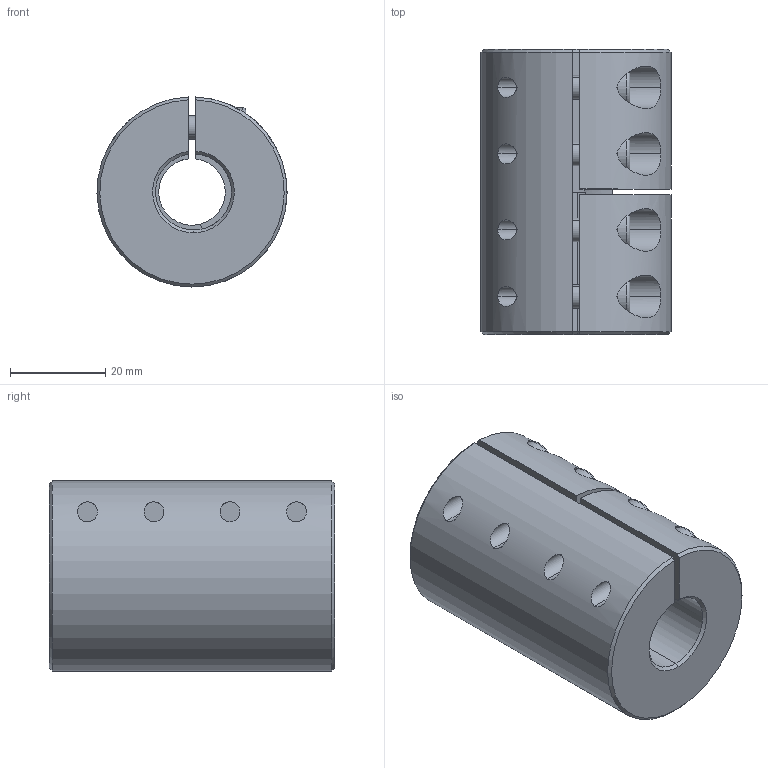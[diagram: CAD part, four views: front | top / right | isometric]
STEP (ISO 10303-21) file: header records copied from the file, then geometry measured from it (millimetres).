
FILE_DESCRIPTION (( 'STEP AP214' ), '1' );
FILE_NAME ('LL-B-D40L60-14-16½¨Ä£.STEP', '2022-07-22T01:01:00', ( '' ), ( '' ), 'SwSTEP 2.0', 'SolidWorks 2022', '' );
FILE_SCHEMA (( 'AUTOMOTIVE_DESIGN' ));
Length unit declared in the file: millimetre
Products named in the file (1): LL-B-D40L60-14-16膘耀
Bounding box: 40 x 60 x 39.99 mm (x, y, z)
Volume: 61578.4 mm3; surface area: 17233.5 mm2
Topology: 1 solids, 1 shells, 176 faces, 444 edges, 278 vertices
Faces by surface type: plane 84, cylinder 70, cone 14, torus 8
Entity records: 5801 total; most frequent: CARTESIAN_POINT 1475, DIRECTION 941, ORIENTED_EDGE 872, EDGE_CURVE 436, AXIS2_PLACEMENT_3D 368, VERTEX_POINT 278, EDGE_LOOP 208, VECTOR 205
